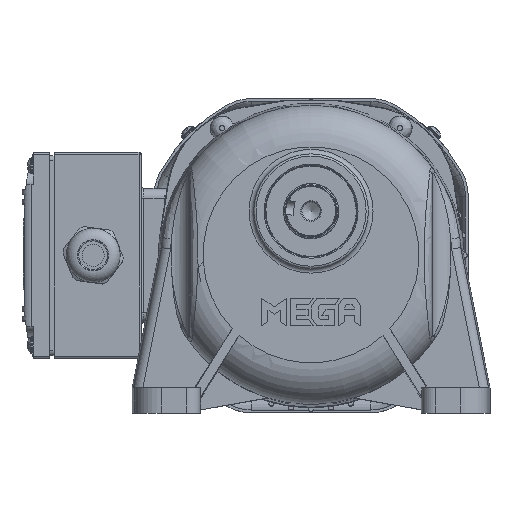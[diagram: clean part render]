
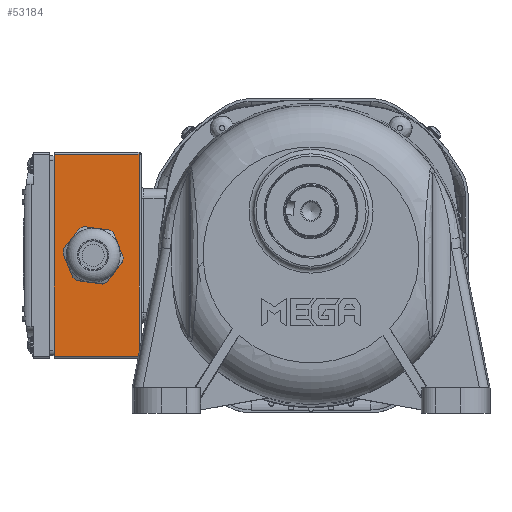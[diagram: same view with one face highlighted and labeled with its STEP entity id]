
A CAD part, top view. The second image highlights one B-rep face of the part: STEP entity #53184.
In plain terms, the highlighted planar face has unit normal (0, 0, 1).
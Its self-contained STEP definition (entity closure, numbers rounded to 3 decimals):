
#1148=FACE_BOUND('',#6306,.T.);
#1908=PLANE('',#56744);
#3108=FACE_OUTER_BOUND('',#6305,.T.);
#6305=EDGE_LOOP('',(#35111,#35112,#35113,#35114));
#6306=EDGE_LOOP('',(#35115,#35116,#35117,#35118,#35119,#35120,#35121,#35122,
#35123,#35124,#35125,#35126));
#9256=CIRCLE('',#56123,13.);
#9258=CIRCLE('',#56126,13.);
#9260=CIRCLE('',#56129,13.);
#9262=CIRCLE('',#56132,13.);
#9264=CIRCLE('',#56135,13.);
#9266=CIRCLE('',#56138,13.);
#12403=LINE('',#76750,#15284);
#12432=LINE('',#76870,#15313);
#12433=LINE('',#76872,#15314);
#12434=LINE('',#76874,#15315);
#12435=LINE('',#76876,#15316);
#12436=LINE('',#76878,#15317);
#13025=LINE('',#78991,#15906);
#13027=LINE('',#79006,#15908);
#13029=LINE('',#79012,#15910);
#13030=LINE('',#79013,#15911);
#15284=VECTOR('',#62026,10.);
#15313=VECTOR('',#62137,10.);
#15314=VECTOR('',#62140,10.);
#15315=VECTOR('',#62143,10.);
#15316=VECTOR('',#62146,10.);
#15317=VECTOR('',#62149,10.);
#15906=VECTOR('',#63834,10.);
#15908=VECTOR('',#63856,10.);
#15910=VECTOR('',#63862,10.);
#15911=VECTOR('',#63863,10.);
#20077=VERTEX_POINT('',#76696);
#20079=VERTEX_POINT('',#76700);
#20081=VERTEX_POINT('',#76705);
#20083=VERTEX_POINT('',#76709);
#20085=VERTEX_POINT('',#76714);
#20087=VERTEX_POINT('',#76718);
#20089=VERTEX_POINT('',#76723);
#20091=VERTEX_POINT('',#76727);
#20093=VERTEX_POINT('',#76732);
#20095=VERTEX_POINT('',#76736);
#20097=VERTEX_POINT('',#76741);
#20099=VERTEX_POINT('',#76745);
#20730=VERTEX_POINT('',#78987);
#20731=VERTEX_POINT('',#78989);
#20734=VERTEX_POINT('',#79005);
#20736=VERTEX_POINT('',#79011);
#25101=EDGE_CURVE('',#20077,#20079,#9256,.T.);
#25105=EDGE_CURVE('',#20081,#20083,#9258,.T.);
#25109=EDGE_CURVE('',#20085,#20087,#9260,.T.);
#25113=EDGE_CURVE('',#20089,#20091,#9262,.T.);
#25117=EDGE_CURVE('',#20093,#20095,#9264,.T.);
#25121=EDGE_CURVE('',#20097,#20099,#9266,.T.);
#25123=EDGE_CURVE('',#20099,#20077,#12403,.T.);
#25179=EDGE_CURVE('',#20079,#20081,#12432,.T.);
#25180=EDGE_CURVE('',#20095,#20097,#12433,.T.);
#25181=EDGE_CURVE('',#20091,#20093,#12434,.T.);
#25182=EDGE_CURVE('',#20087,#20089,#12435,.T.);
#25183=EDGE_CURVE('',#20083,#20085,#12436,.T.);
#26064=EDGE_CURVE('',#20731,#20730,#13025,.T.);
#26071=EDGE_CURVE('',#20730,#20734,#13027,.T.);
#26074=EDGE_CURVE('',#20736,#20731,#13029,.T.);
#26075=EDGE_CURVE('',#20736,#20734,#13030,.T.);
#35111=ORIENTED_EDGE('',*,*,#26064,.F.);
#35112=ORIENTED_EDGE('',*,*,#26074,.F.);
#35113=ORIENTED_EDGE('',*,*,#26075,.T.);
#35114=ORIENTED_EDGE('',*,*,#26071,.F.);
#35115=ORIENTED_EDGE('',*,*,#25121,.T.);
#35116=ORIENTED_EDGE('',*,*,#25123,.T.);
#35117=ORIENTED_EDGE('',*,*,#25101,.T.);
#35118=ORIENTED_EDGE('',*,*,#25179,.T.);
#35119=ORIENTED_EDGE('',*,*,#25105,.T.);
#35120=ORIENTED_EDGE('',*,*,#25183,.T.);
#35121=ORIENTED_EDGE('',*,*,#25109,.T.);
#35122=ORIENTED_EDGE('',*,*,#25182,.T.);
#35123=ORIENTED_EDGE('',*,*,#25113,.T.);
#35124=ORIENTED_EDGE('',*,*,#25181,.T.);
#35125=ORIENTED_EDGE('',*,*,#25117,.T.);
#35126=ORIENTED_EDGE('',*,*,#25180,.T.);
#53184=ADVANCED_FACE('',(#3108,#1148),#1908,.T.);
#56123=AXIS2_PLACEMENT_3D('',#76702,#61981,#61982);
#56126=AXIS2_PLACEMENT_3D('',#76711,#61989,#61990);
#56129=AXIS2_PLACEMENT_3D('',#76720,#61997,#61998);
#56132=AXIS2_PLACEMENT_3D('',#76729,#62005,#62006);
#56135=AXIS2_PLACEMENT_3D('',#76738,#62013,#62014);
#56138=AXIS2_PLACEMENT_3D('',#76747,#62021,#62022);
#56744=AXIS2_PLACEMENT_3D('',#79010,#63860,#63861);
#61981=DIRECTION('center_axis',(0.,0.,
-1.));
#61982=DIRECTION('ref_axis',(-0.378,0.926,0.));
#61989=DIRECTION('center_axis',(0.,0.,
-1.));
#61990=DIRECTION('ref_axis',(-0.378,0.926,0.));
#61997=DIRECTION('center_axis',(0.,0.,
-1.));
#61998=DIRECTION('ref_axis',(-0.378,0.926,0.));
#62005=DIRECTION('center_axis',(0.,0.,
-1.));
#62006=DIRECTION('ref_axis',(-0.378,0.926,0.));
#62013=DIRECTION('center_axis',(0.,0.,
-1.));
#62014=DIRECTION('ref_axis',(-0.378,0.926,0.));
#62021=DIRECTION('center_axis',(0.,0.,
-1.));
#62022=DIRECTION('ref_axis',(-0.378,0.926,0.));
#62026=DIRECTION('',(0.378,-0.926,0.));
#62137=DIRECTION('',(-0.613,-0.79,0.));
#62140=DIRECTION('',(0.991,-0.135,0.));
#62143=DIRECTION('',(0.613,0.79,0.));
#62146=DIRECTION('',(-0.378,0.926,0.));
#62149=DIRECTION('',(-0.991,0.135,0.));
#63834=DIRECTION('',(0.,-1.,0.));
#63856=DIRECTION('',(-1.,0.,0.));
#63860=DIRECTION('center_axis',(0.,0.,
1.));
#63861=DIRECTION('ref_axis',(1.,0.,0.));
#63862=DIRECTION('',(1.,0.,0.));
#63863=DIRECTION('',(0.,-1.,0.));
#76696=CARTESIAN_POINT('',(-95.02,-1.725,-111.25));
#76700=CARTESIAN_POINT('',(-95.371,-4.292,-111.25));
#76702=CARTESIAN_POINT('Origin',(-108.011,-1.256,-111.25));
#76705=CARTESIAN_POINT('',(-101.921,-12.742,-111.25));
#76709=CARTESIAN_POINT('',(-104.319,-13.721,-111.25));
#76711=CARTESIAN_POINT('Origin',(-108.011,-1.256,-111.25));
#76714=CARTESIAN_POINT('',(-114.913,-12.273,-111.25));
#76718=CARTESIAN_POINT('',(-116.96,-10.686,-111.25));
#76720=CARTESIAN_POINT('Origin',(-108.011,-1.256,-111.25));
#76723=CARTESIAN_POINT('',(-121.003,-0.788,-111.25));
#76727=CARTESIAN_POINT('',(-120.652,1.779,-111.25));
#76729=CARTESIAN_POINT('Origin',(-108.011,-1.256,-111.25));
#76732=CARTESIAN_POINT('',(-114.101,10.229,-111.25));
#76736=CARTESIAN_POINT('',(-111.703,11.208,-111.25));
#76738=CARTESIAN_POINT('Origin',(-108.011,-1.256,-111.25));
#76741=CARTESIAN_POINT('',(-101.11,9.761,-111.25));
#76745=CARTESIAN_POINT('',(-99.062,8.173,-111.25));
#76747=CARTESIAN_POINT('Origin',(-108.011,-1.256,-111.25));
#76750=CARTESIAN_POINT('',(-102.122,15.665,-111.25));
#76870=CARTESIAN_POINT('',(-85.905,7.918,-111.25));
#76872=CARTESIAN_POINT('',(-95.729,9.025,-111.25));
#76874=CARTESIAN_POINT('',(-100.445,27.846,-111.25));
#76876=CARTESIAN_POINT('',(-126.65,13.038,-111.25));
#76878=CARTESIAN_POINT('',(-105.717,-13.53,-111.25));
#78987=CARTESIAN_POINT('',(-88.011,-45.256,-111.25));
#78989=CARTESIAN_POINT('',(-88.011,42.744,-111.25));
#78991=CARTESIAN_POINT('',(-88.011,21.244,-111.25));
#79005=CARTESIAN_POINT('',(-125.011,-45.256,-111.25));
#79006=CARTESIAN_POINT('',(-87.011,-45.256,-111.25));
#79010=CARTESIAN_POINT('Origin',(-87.011,43.744,-111.25));
#79011=CARTESIAN_POINT('',(-125.011,42.744,-111.25));
#79012=CARTESIAN_POINT('',(-87.011,42.744,-111.25));
#79013=CARTESIAN_POINT('',(-125.011,-46.256,-111.25));
